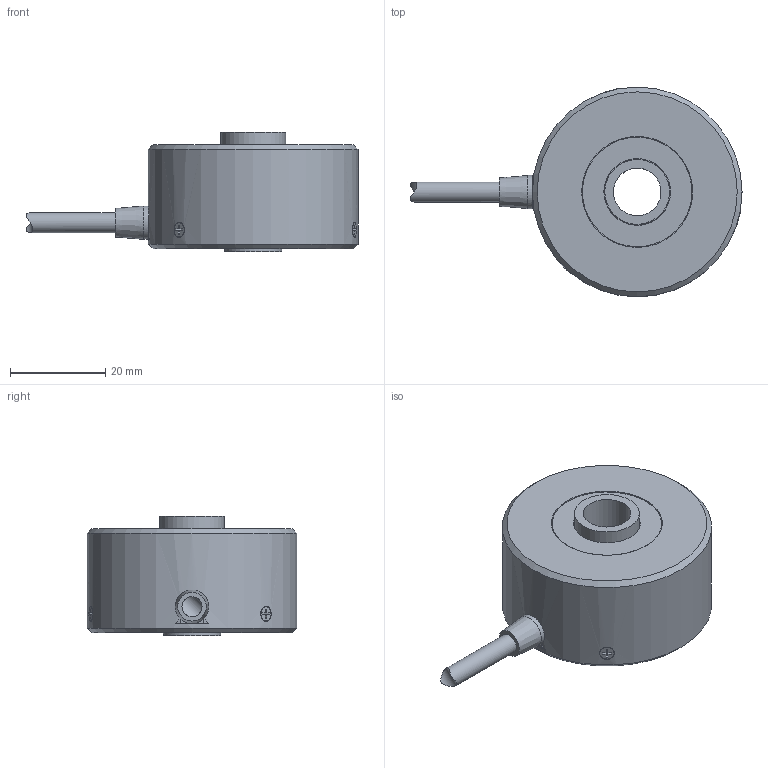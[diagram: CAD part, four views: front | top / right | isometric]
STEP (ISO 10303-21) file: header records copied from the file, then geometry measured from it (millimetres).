
FILE_DESCRIPTION(('STEP AP242'),'1');
FILE_NAME('P.stp','2022-12-15T05:06:29',(' '),(' '),'Spatial InterOp 3D',' ',' ');
FILE_SCHEMA(('AP242_MANAGED_MODEL_BASED_3D_ENGINEERING_MIM_LF {1 0 10303 442 1 1 4}'));
Length unit declared in the file: millimetre
Products named in the file (7): L9A02B MEH-30-＊＊＊P; 012820 シール 14×23.6 629RS; 018240 サラ0番1種 M2x4 鉄 三価黒; 029970 5芯(4.2)ケーブル1M; ケーブル径φ4.2; φ4.2ブッシュ
Assembly tree (8 placements, depth 3):
  L9A02B MEH-30-＊＊＊P
    012820 シール 14×23.6 629RS
    L9A02B MEH-30-＊＊＊P
    018240 サラ0番1種 M2x4 鉄 三価黒  x3
    029970 5芯(4.2)ケーブル1M
      ケーブル径φ4.2
      φ4.2ブッシュ
Bounding box: 69.69 x 44 x 25 mm (x, y, z)
Volume: 31927.1 mm3; surface area: 9299.4 mm2
Topology: 7 solids, 7 shells, 132 faces, 295 edges, 192 vertices
Faces by surface type: plane 75, cylinder 40, cone 16, torus 1
Full cylindrical faces by diameter (mm): 2 x6, 2.1 x3, 2.5 x6, 3 x3, 4.2 x2, 7 x1, 10 x1, 12 x1, 13.6 x1, 14 x3, 16.5 x1, 20.6 x1, 21 x1, 23 x1, 23.3 x1, 44 x1
Entity records: 3719 total; most frequent: CARTESIAN_POINT 744, DIRECTION 405, ORIENTED_EDGE 288, AXIS2_PLACEMENT_3D 167, EDGE_LOOP 155, EDGE_CURVE 144, FACE_OUTER_BOUND 122, VERTEX_POINT 118
